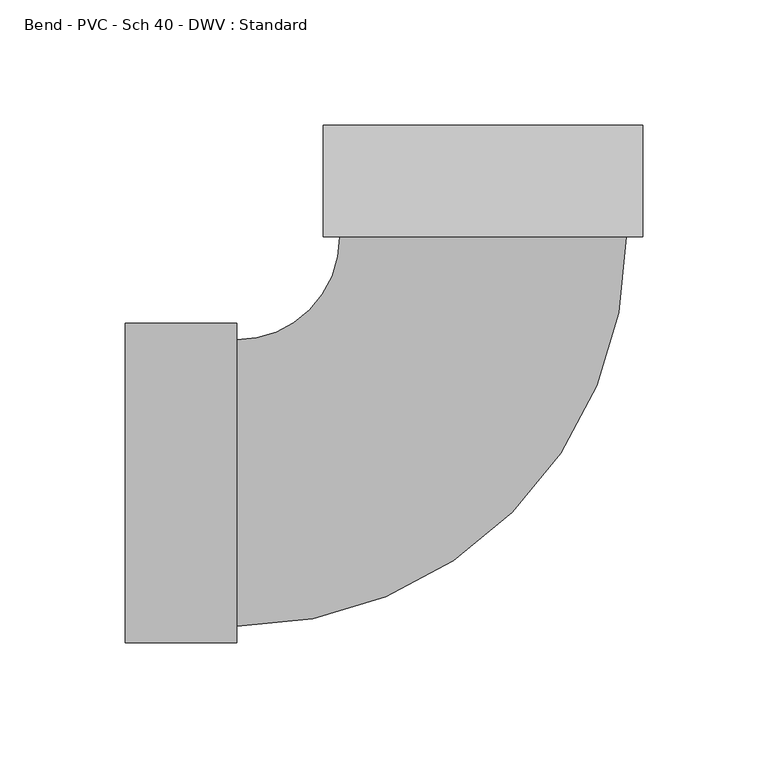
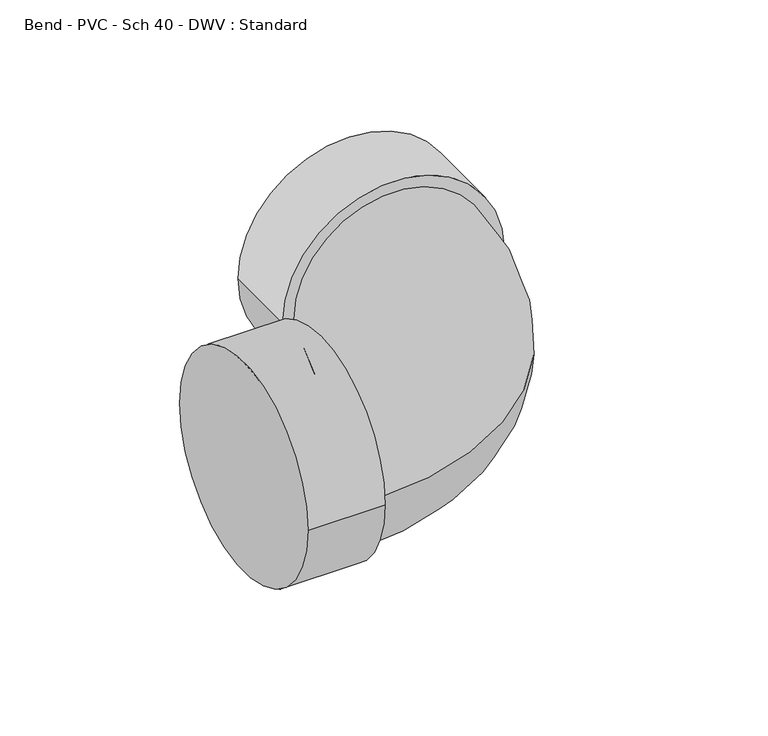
"""IFC4 building model written with IfcOpenShell, lengths in millimetres: pipe fitting geometry, Bend - PVC - Sch 40 - DWV : Standard."""

from ifc_helpers import new_model, si_unit, point, frame, origin, place, context, project, spatial, circle_curve, ellipse_curve, trimmed, source, transform, mapped, element, save
from ifc_brep_helpers import plane_surface, cylinder_surface, revolved_surface, advanced_brep


def bend_pvc_sch_40_dwv_standard_1fb0f857(model_context):
    return source(origin(), model_context, "Body", "AdvancedBrep", [
        advanced_brep(
        [(-142.875, -63.754, 0.0), (-142.875, 63.754, 0.0), (-98.425, -63.754, 0.0), (-98.425, 63.754, 0.0), (-98.425, -57.15, 0.0), (-98.425, 57.15, 0.0), (-57.15, 98.425, 0.0), (57.15, 98.425, 0.0), (63.754, 98.425, 0.0), (-63.754, 98.425, 0.0), (63.754, 142.875, 0.0), (-63.754, 142.875, 0.0)],
        [
            (0, 1, circle_curve(frame((-142.875, 0.0, 0.0), z_axis=(-1.0, 0.0, 0.0), x_axis=(0.0, 1.0, 0.0)), 63.754)),
            (1, 0, circle_curve(frame((-142.875, 0.0, 0.0), z_axis=(-1.0, 0.0, 0.0), x_axis=(0.0, 1.0, 0.0)), 63.754)),
            (2, 3, circle_curve(frame((-98.425, 0.0, 0.0), z_axis=(1.0, 0.0, 0.0), x_axis=(0.0, 1.0, 0.0)), 63.754)),
            (3, 2, circle_curve(frame((-98.425, 0.0, 0.0), z_axis=(1.0, 0.0, 0.0), x_axis=(0.0, 1.0, 0.0)), 63.754)),
            (4, 5, circle_curve(frame((-98.425, 0.0, 0.0), z_axis=(-1.0, 0.0, 0.0), x_axis=(0.0, 1.0, 0.0)), 57.15)),
            (5, 4, circle_curve(frame((-98.425, 0.0, 0.0), z_axis=(-1.0, 0.0, 0.0), x_axis=(0.0, 1.0, 0.0)), 57.15)),
            (0, 2),
            (3, 1),
            (6, 5, circle_curve(frame((-98.425, 98.425, 0.0), z_axis=(0.0, 0.0, -1.0), x_axis=(0.0, -1.0, 0.0)), 41.275)),
            (4, 7, circle_curve(frame((-98.425, 98.425, 0.0), z_axis=(0.0, 0.0, 1.0), x_axis=(0.0, -1.0, 0.0)), 155.575)),
            (7, 6, circle_curve(frame((0.0, 98.425, 0.0), z_axis=(0.0, -1.0, 0.0), x_axis=(-1.0, 0.0, 0.0)), 57.15)),
            (6, 7, circle_curve(frame((0.0, 98.425, 0.0), z_axis=(0.0, -1.0, 0.0), x_axis=(-1.0, 0.0, 0.0)), 57.15)),
            (8, 9, circle_curve(frame((0.0, 98.425, 0.0), z_axis=(0.0, -1.0, 0.0), x_axis=(-1.0, 0.0, 0.0)), 63.754)),
            (9, 8, circle_curve(frame((0.0, 98.425, 0.0), z_axis=(0.0, -1.0, 0.0), x_axis=(-1.0, 0.0, 0.0)), 63.754)),
            (10, 11, circle_curve(frame((0.0, 142.875, 0.0), z_axis=(0.0, 1.0, 0.0), x_axis=(-1.0, 0.0, 0.0)), 63.754)),
            (11, 10, circle_curve(frame((0.0, 142.875, 0.0), z_axis=(0.0, 1.0, 0.0), x_axis=(-1.0, 0.0, 0.0)), 63.754)),
            (8, 10),
            (11, 9),
        ],
        [
            plane_surface(frame((-142.875, 0.0, 0.0), z_axis=(-1.0, 0.0, 0.0), x_axis=(0.0, 0.0, 1.0))),
            plane_surface(frame((-98.425, 0.0, 0.0), z_axis=(1.0, 0.0, 0.0), x_axis=(0.0, 0.0, 1.0))),
            cylinder_surface(frame((-142.875, 0.0, 0.0), z_axis=(-1.0, 0.0, 0.0), x_axis=(0.0, 1.0, 0.0)), 63.754),
            revolved_surface(trimmed(ellipse_curve(frame((-98.425, 0.0, 0.0), z_axis=(-1.0, 0.0, 0.0), x_axis=(0.0, 1.0, 0.0)), 57.15, 57.15), [point((-98.425, -57.15, 0.0))], [point((-98.425, 57.15, 0.0))], True, "CARTESIAN"), (-98.425, 98.425, 0.0), (0.0, 0.0, 1.0)),
            revolved_surface(trimmed(ellipse_curve(frame((-98.425, 0.0, 0.0), z_axis=(-1.0, 0.0, 0.0), x_axis=(0.0, 1.0, 0.0)), 57.15, 57.15), [point((-98.425, 57.15, 0.0))], [point((-98.425, -57.15, 0.0))], True, "CARTESIAN"), (-98.425, 98.425, 0.0), (0.0, 0.0, 1.0)),
            plane_surface(frame((0.0, 98.425, 0.0), z_axis=(0.0, -1.0, 0.0), x_axis=(0.0, 0.0, 1.0))),
            plane_surface(frame((0.0, 142.875, 0.0), z_axis=(0.0, 1.0, 0.0), x_axis=(0.0, 0.0, 1.0))),
            cylinder_surface(frame((0.0, 98.425, 0.0), z_axis=(0.0, -1.0, 0.0), x_axis=(-1.0, 0.0, 0.0)), 63.754),
        ],
        [
            (0, [[1, 2]]),
            (1, [[3, 4], [5, 6]]),
            (2, [[-1, 7, -4, 8]]),
            (2, [[-2, -8, -3, -7]]),
            (3, [[9, -5, 10, 11]]),
            (4, [[-9, 12, -10, -6]]),
            (5, [[13, 14], [-11, -12]]),
            (6, [[15, 16]]),
            (7, [[-13, 17, -16, 18]]),
            (7, [[-14, -18, -15, -17]]),
        ],
    ),
    ])


if __name__ == "__main__":
    model = new_model("IFC4")
    model_context = context("Model", 3, world=origin())
    ifc_project = project(units=[si_unit("LENGTHUNIT", "METRE", prefix="MILLI")], contexts=[model_context])
    site = spatial("IfcSite", under=ifc_project)
    building = spatial("IfcBuilding", under=site)
    placement = place(None, origin())
    bend_pvc_sch_40_dwv_standard_shape = bend_pvc_sch_40_dwv_standard_1fb0f857(model_context)
    element("IfcPipeFitting", 1, ObjectType="Bend - PVC - Sch 40 - DWV : Standard", at=placement, inside=building, context=model_context, shape_type="MappedRepresentation", body=[
        mapped(bend_pvc_sch_40_dwv_standard_shape, transform((0.0, 0.0, 0.0), x_axis=(1.0, 0.0, 0.0), y_axis=(0.0, 1.0, 0.0), z_axis=(0.0, 0.0, 1.0))),
    ])
    save(model, "model.ifc")
